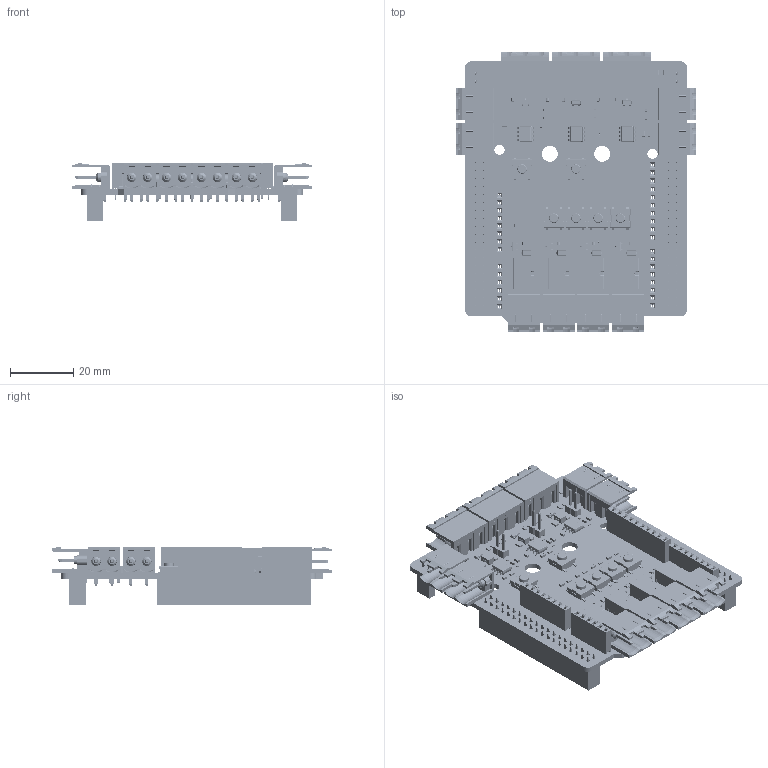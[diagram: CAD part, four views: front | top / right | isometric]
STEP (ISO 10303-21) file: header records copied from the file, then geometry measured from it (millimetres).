
FILE_DESCRIPTION(('Designed by EasyEDA Pro'),'2;1');
FILE_NAME('Open CASCADE Shape Model','2026-03-28T18:46:25',('Author'),( 'Open CASCADE'),'Open CASCADE STEP processor 7.8','Open CASCADE 7.8' ,'Unknown');
FILE_SCHEMA(('AUTOMOTIVE_DESIGN { 1 0 10303 214 1 1 1 1 }'));
Length unit declared in the file: millimetre
Products named in the file (52): EasyEDA PCB Model~wTyl; Board~wTyl; TopCopper~wTyl; BottomCopper~wTyl; TopSilkscreen~wTyl; BottomSilkscreen~wTyl; TopFpcStiffener~wTyl; BottomFpcStiffener~wTyl; LED10~LED0603-RD_GREEN~LED0603-RD_GREEN~wTyl; LED0603-RD_GREEN~LED0603-RD_GREEN~wTyl; LED3~LED0603-RD_BLUE~LED0603-RD_BLUE~wTyl; LED0603-RD_BLUE~LED0603-RD_BLUE~wTyl; U5~SOIC-8_L4.9-W3.9-P1.27-LS6.0-BL~SOIC-8_
L4.9-W3.9-H1.7-LS6.0-P1.27~wTyl; SOIC-8_L4.9-W3.9-P1.27-LS6.0-BL~SOIC-8_L4.9-W3.9-H1.7-LS6.0-P1.27~wTyl; R24~R0805~R0805_L2.0-W1.3-H0.6~wTyl; R0805~R0805_L2.0-W1.3-H0.6~wTyl; R11~R0402~R0402_L1.0-W0.5-H0.4~wTyl; R0402~R0402_L1.0-W0.5-H0.4~wTyl; R7~R0603~R0603~wTyl; R0603~R0603~wTyl; LED1~LED0603-RD_RED~LED0603-RD_RED~wTyl; LED0603-RD_RED~LED0603-RD_RED~wTyl; C7~C0603~C0603_L1.6-W0.8-H0.8~wTyl; C0603~C0603_L1.6-W0.8-H0.8~wTyl; H1~HDR-TH_2P-P2.54-V-M~HDR2.54-M-LI-1X2P~wTyl; HDR-TH_2P-P2.54-V-M~HDR2.54-M-LI-1X2P~wTyl; D1~SOT-23-3_L2.9-W1.3-P1.90-LS2.4-BR~SOT-23-3P_
L2.9-W1.3-H1.0-LS2.4-P0.95~wTyl; SOT-23-3_L2.9-W1.3-P1.90-LS2.4-BR~SOT-23-3P_
L2.9-W1.3-H1.0-LS2.4-P0.95~wTyl; D4~SOD-123_L2.7-W1.6-LS3.7-RD-1~SOD-123_L2.7-W1.6-LS3.7-RD-1~wTyl; SOD-123_L2.7-W1.6-LS3.7-RD-1~SOD-123_L2.7-W1.6-LS3.7-RD-1~wTyl; U3~HDR-TH_2P-P2.54-V-F~HDR-TH_2P-P2.54-F-LI-1X2P~wTyl; HDR-TH_2P-P2.54-V-F~HDR-TH_2P-P2.54-F-LI-1X2P~wTyl; SW1~SW-SMD_4P-L6.0-W6.0-P4.50-LS9.0-2~SW-SMD_
4P-L6.0-W6.0-P4.50-LS11.0~wTyl; SW-SMD_4P-L6.0-W6.0-P4.50-LS9.0-2~SW-SMD_
4P-L6.0-W6.0-P4.50-LS11.0~wTyl; U1~HDR-TH_38P-P2.54-V-F-R2-C19-S2.54-1~HDR-TH_
38P-P2.54-V-F-R2-C19-S2.54-1~wTyl; HDR-TH_38P-P2.54-V-F-R2-C19-S2.54-1~HDR-TH_
38P-P2.54-V-F-R2-C19-S2.54-1~wTyl; CN5~CONN-TH_3P-P5.08_WJ2EDGR-5.08-3P~CONN-TH_WJ5.08-WI-3P~wTyl; CONN-TH_3P-P5.08_WJ2EDGR-5.08-3P~CONN-TH_WJ5.08-WI-3P~wTyl; D8~SOD-323_L1.7-W1.3-LS2.6-RD~SOD-323_L1.7-W1.3-LS2.6-RD~wTyl; SOD-323_L1.7-W1.3-LS2.6-RD~SOD-323_L1.7-W1.3-LS2.6-RD~wTyl ...
Assembly tree (147 placements, depth 3):
  EasyEDA PCB Model~wTyl
    Board~wTyl
    TopCopper~wTyl
    BottomCopper~wTyl
    TopSilkscreen~wTyl
    BottomSilkscreen~wTyl
    TopFpcStiffener~wTyl
    BottomFpcStiffener~wTyl
    LED10~LED0603-RD_GREEN~LED0603-RD_GREEN~wTyl  x8
      LED0603-RD_GREEN~LED0603-RD_GREEN~wTyl
    LED3~LED0603-RD_BLUE~LED0603-RD_BLUE~wTyl  x3
      LED0603-RD_BLUE~LED0603-RD_BLUE~wTyl
    U5~SOIC-8_L4.9-W3.9-P1.27-LS6.0-BL~SOIC-8_
L4.9-W3.9-H1.7-LS6.0-P1.27~wTyl  x3
      SOIC-8_L4.9-W3.9-P1.27-LS6.0-BL~SOIC-8_L4.9-W3.9-H1.7-LS6.0-P1.27~wTyl
    R24~R0805~R0805_L2.0-W1.3-H0.6~wTyl  x6
      R0805~R0805_L2.0-W1.3-H0.6~wTyl
    R11~R0402~R0402_L1.0-W0.5-H0.4~wTyl  x14
      R0402~R0402_L1.0-W0.5-H0.4~wTyl
    R7~R0603~R0603~wTyl  x18
      R0603~R0603~wTyl
    LED1~LED0603-RD_RED~LED0603-RD_RED~wTyl
      LED0603-RD_RED~LED0603-RD_RED~wTyl
    C7~C0603~C0603_L1.6-W0.8-H0.8~wTyl  x15
      C0603~C0603_L1.6-W0.8-H0.8~wTyl
    H1~HDR-TH_2P-P2.54-V-M~HDR2.54-M-LI-1X2P~wTyl  x3
      HDR-TH_2P-P2.54-V-M~HDR2.54-M-LI-1X2P~wTyl
    D1~SOT-23-3_L2.9-W1.3-P1.90-LS2.4-BR~SOT-23-3P_
L2.9-W1.3-H1.0-LS2.4-P0.95~wTyl  x7
      SOT-23-3_L2.9-W1.3-P1.90-LS2.4-BR~SOT-23-3P_
L2.9-W1.3-H1.0-LS2.4-P0.95~wTyl
    D4~SOD-123_L2.7-W1.6-LS3.7-RD-1~SOD-123_L2.7-W1.6-LS3.7-RD-1~wTyl  x4
      SOD-123_L2.7-W1.6-LS3.7-RD-1~SOD-123_L2.7-W1.6-LS3.7-RD-1~wTyl
    U3~HDR-TH_2P-P2.54-V-F~HDR-TH_2P-P2.54-F-LI-1X2P~wTyl  x2
      HDR-TH_2P-P2.54-V-F~HDR-TH_2P-P2.54-F-LI-1X2P~wTyl
    SW1~SW-SMD_4P-L6.0-W6.0-P4.50-LS9.0-2~SW-SMD_
4P-L6.0-W6.0-P4.50-LS11.0~wTyl  x6
      SW-SMD_4P-L6.0-W6.0-P4.50-LS9.0-2~SW-SMD_
4P-L6.0-W6.0-P4.50-LS11.0~wTyl
    U1~HDR-TH_38P-P2.54-V-F-R2-C19-S2.54-1~HDR-TH_
38P-P2.54-V-F-R2-C19-S2.54-1~wTyl  x2
      HDR-TH_38P-P2.54-V-F-R2-C19-S2.54-1~HDR-TH_
38P-P2.54-V-F-R2-C19-S2.54-1~wTyl
    CN5~CONN-TH_3P-P5.08_WJ2EDGR-5.08-3P~CONN-TH_WJ5.08-WI-3P~wTyl  x3
      CONN-TH_3P-P5.08_WJ2EDGR-5.08-3P~CONN-TH_WJ5.08-WI-3P~wTyl
    D8~SOD-323_L1.7-W1.3-LS2.6-RD~SOD-323_L1.7-W1.3-LS2.6-RD~wTyl  x4
      SOD-323_L1.7-W1.3-LS2.6-RD~SOD-323_L1.7-W1.3-LS2.6-RD~wTyl
    CN2~HDR-TH_6P-P2.54-V-F~HDR-TH_6P-P2.54-V-F~wTyl
      HDR-TH_6P-P2.54-V-F~HDR-TH_6P-P2.54-V-F~wTyl
    CN4~HDR-TH_10P-P2.54-V-F~HDR-TH_10P-P2.54-F-LI-1X10P~wTyl
      HDR-TH_10P-P2.54-V-F~HDR-TH_10P-P2.54-F-LI-1X10P~wTyl
    K1~RELAY-SMD_G6K-2F-X-XX~SMD-8_L10.0-W6.5-H5.4-LS7.8-P2.2-3.2~wTyl  x4
      RELAY-SMD_G6K-2F-X-XX~SMD-8_L10.0-W6.5-H5.4-LS7.8-P2.2-3.2~wTyl
    CN8~CONN-TH_WJ2EDGR-5.08-2P~CONN-TH_WJ2EDGR-5.08-2P~wTyl  x8
      CONN-TH_WJ2EDGR-5.08-2P~CONN-TH_WJ2EDGR-5.08-2P~wTyl
    CN3~HDR-TH_8P-P2.54-V-F~HDR-TH_8P-P2.54-F-LI-1X8P~wTyl  x2
      HDR-TH_8P-P2.54-V-F~HDR-TH_8P-P2.54-F-LI-1X8P~wTyl
    U8~FILTER-SMD_4P-L3.2-W2.5-BL_ACT1210D-101-2P-TL00~FILTER-SMD_
4P-L3.2-W2.5-BL_ACT1210D-101-2P-TL00~wTyl  x3
      FILTER-SMD_4P-L3.2-W2.5-BL_ACT1210D-101-2P-TL00~FILTER-SMD_
4P-L3.2-W2.5-BL_ACT1210D-101-2P-TL00~wTyl
Bounding box: 76 x 88.47 x 18.59 mm (x, y, z)
Volume: 20525.6 mm3; surface area: 38381.8 mm2
Topology: 994 solids, 1826 shells, 46498 faces, 147823 edges, 103717 vertices
Faces by surface type: plane 26806, bspline 11895, cylinder 5654, revolution 1200, sphere 507, torus 264, cone 172
Entity records: 666407 total; most frequent: CARTESIAN_POINT 154028, ORIENTED_EDGE 80264, DIRECTION 76429, EDGE_CURVE 52819, VERTEX_POINT 43095, LINE 38609, VECTOR 38609, AXIS2_PLACEMENT_3D 18710
